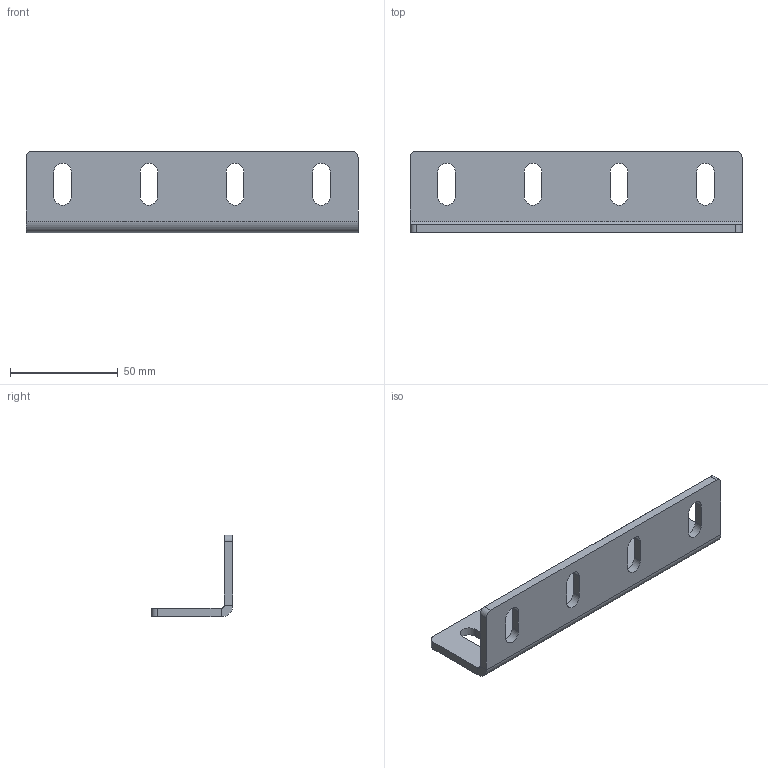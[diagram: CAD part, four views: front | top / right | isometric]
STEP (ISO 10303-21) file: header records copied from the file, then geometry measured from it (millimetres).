
FILE_DESCRIPTION (( 'STEP AP214' ), '1' );
FILE_NAME ('8207s.STEP', '2018-02-26T09:03:17', ( '' ), ( '' ), 'SwSTEP 2.0', 'SolidWorks 2014', '' );
FILE_SCHEMA (( 'AUTOMOTIVE_DESIGN' ));
Length unit declared in the file: millimetre
Products named in the file (2): 8207s
Bounding box: 154 x 38 x 38 mm (x, y, z)
Volume: 38766.9 mm3; surface area: 22700 mm2
Topology: 1 solids, 1 shells, 50 faces, 136 edges, 88 vertices
Faces by surface type: plane 28, cylinder 22
Entity records: 1661 total; most frequent: DIRECTION 284, CARTESIAN_POINT 276, ORIENTED_EDGE 272, EDGE_CURVE 136, AXIS2_PLACEMENT_3D 96, VECTOR 92, LINE 92, VERTEX_POINT 88
